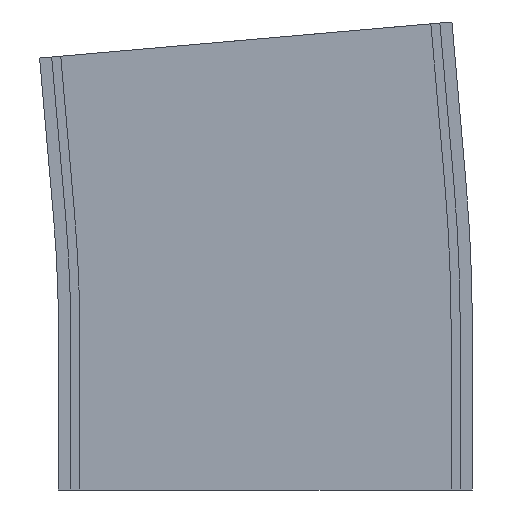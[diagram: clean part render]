
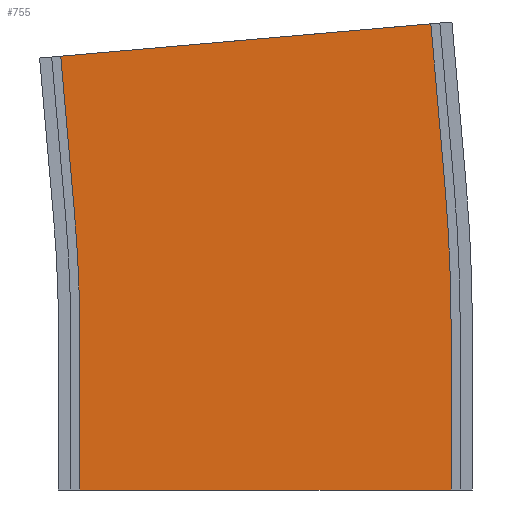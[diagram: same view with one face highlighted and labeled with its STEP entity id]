
A CAD part, left-side view. The second image highlights one B-rep face of the part: STEP entity #755.
In plain terms, the highlighted planar face has unit normal (-1, 0, 0).
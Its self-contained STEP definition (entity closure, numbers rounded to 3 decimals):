
#8 = CIRCLE ( 'NONE', #409, 561.25 ) ;
#39 = CARTESIAN_POINT ( 'NONE',  ( -325.25, 67.495, 143.04 ) ) ;
#52 = EDGE_CURVE ( 'NONE', #1266, #1389, #1363, .T. ) ;
#61 = VECTOR ( 'NONE', #1192, 1000. ) ;
#78 = LINE ( 'NONE', #1265, #919 ) ;
#80 = VECTOR ( 'NONE', #784, 1000. ) ;
#109 = DIRECTION ( 'NONE',  ( 0., 0.087, 0.996 ) ) ;
#154 = DIRECTION ( 'NONE',  ( 0., 0., 1. ) ) ;
#189 = LINE ( 'NONE', #484, #345 ) ;
#229 = CARTESIAN_POINT ( 'NONE',  ( -325.25, 62.92, 90.74 ) ) ;
#234 = ORIENTED_EDGE ( 'NONE', *, *, #903, .T. ) ;
#267 = EDGE_LOOP ( 'NONE', ( #1218, #1200, #1202, #234, #1228, #1216, #809, #879 ) ) ;
#305 = CARTESIAN_POINT ( 'NONE',  ( -325.25, -61.25, 0. ) ) ;
#345 = VECTOR ( 'NONE', #1134, 1000. ) ;
#346 = VECTOR ( 'NONE', #109, 1000. ) ;
#354 = VERTEX_POINT ( 'NONE', #1246 ) ;
#395 = CARTESIAN_POINT ( 'NONE',  ( -325.25, 61.25, 0. ) ) ;
#403 = DIRECTION ( 'NONE',  ( -1., 0., 0. ) ) ;
#409 = AXIS2_PLACEMENT_3D ( 'NONE', #944, #1136, #154 ) ;
#417 = LINE ( 'NONE', #229, #346 ) ;
#484 = CARTESIAN_POINT ( 'NONE',  ( -325.25, 61.25, 52.5 ) ) ;
#487 = CIRCLE ( 'NONE', #1398, 438.75 ) ;
#488 = VECTOR ( 'NONE', #786, 1000. ) ;
#502 = AXIS2_PLACEMENT_3D ( 'NONE', #1283, #771, #1397 ) ;
#547 = CARTESIAN_POINT ( 'NONE',  ( -325.25, -59.114, 101.416 ) ) ;
#548 = PLANE ( 'NONE',  #502 ) ;
#582 = CARTESIAN_POINT ( 'NONE',  ( -325.25, 62.92, 90.74 ) ) ;
#599 = EDGE_CURVE ( 'NONE', #1187, #1389, #1004, .T. ) ;
#685 = VERTEX_POINT ( 'NONE', #547 ) ;
#730 = VERTEX_POINT ( 'NONE', #582 ) ;
#755 = ADVANCED_FACE ( 'NONE', ( #1383 ), #548, .F. ) ;
#771 = DIRECTION ( 'NONE',  ( 1., 0., 0. ) ) ;
#784 = DIRECTION ( 'NONE',  ( 0., 0., -1. ) ) ;
#786 = DIRECTION ( 'NONE',  ( 0., 0.087, 0.996 ) ) ;
#791 = LINE ( 'NONE', #1250, #488 ) ;
#809 = ORIENTED_EDGE ( 'NONE', *, *, #1111, .F. ) ;
#846 = CARTESIAN_POINT ( 'NONE',  ( -325.25, 500., 52.5 ) ) ;
#875 = EDGE_CURVE ( 'NONE', #730, #1039, #417, .T. ) ;
#879 = ORIENTED_EDGE ( 'NONE', *, *, #958, .T. ) ;
#903 = EDGE_CURVE ( 'NONE', #685, #354, #791, .T. ) ;
#919 = VECTOR ( 'NONE', #954, 1000. ) ;
#944 = CARTESIAN_POINT ( 'NONE',  ( -325.25, 500., 52.5 ) ) ;
#954 = DIRECTION ( 'NONE',  ( 0., -0.996, 0.087 ) ) ;
#958 = EDGE_CURVE ( 'NONE', #1371, #1187, #189, .T. ) ;
#1004 = LINE ( 'NONE', #305, #61 ) ;
#1039 = VERTEX_POINT ( 'NONE', #39 ) ;
#1062 = DIRECTION ( 'NONE',  ( 0., 0., 1. ) ) ;
#1090 = CARTESIAN_POINT ( 'NONE',  ( -325.25, -61.25, 0. ) ) ;
#1111 = EDGE_CURVE ( 'NONE', #1371, #730, #487, .T. ) ;
#1134 = DIRECTION ( 'NONE',  ( 0., 0., -1. ) ) ;
#1136 = DIRECTION ( 'NONE',  ( -1., 0., 0. ) ) ;
#1144 = EDGE_CURVE ( 'NONE', #1039, #354, #78, .T. ) ;
#1187 = VERTEX_POINT ( 'NONE', #395 ) ;
#1192 = DIRECTION ( 'NONE',  ( 0., -1., 0. ) ) ;
#1200 = ORIENTED_EDGE ( 'NONE', *, *, #52, .F. ) ;
#1202 = ORIENTED_EDGE ( 'NONE', *, *, #1396, .T. ) ;
#1209 = CARTESIAN_POINT ( 'NONE',  ( -325.25, -61.25, 52.5 ) ) ;
#1216 = ORIENTED_EDGE ( 'NONE', *, *, #875, .F. ) ;
#1218 = ORIENTED_EDGE ( 'NONE', *, *, #599, .T. ) ;
#1228 = ORIENTED_EDGE ( 'NONE', *, *, #1144, .F. ) ;
#1246 = CARTESIAN_POINT ( 'NONE',  ( -325.25, -54.539, 153.716 ) ) ;
#1250 = CARTESIAN_POINT ( 'NONE',  ( -325.25, -59.114, 101.416 ) ) ;
#1265 = CARTESIAN_POINT ( 'NONE',  ( -325.25, -54.539, 153.716 ) ) ;
#1266 = VERTEX_POINT ( 'NONE', #1410 ) ;
#1283 = CARTESIAN_POINT ( 'NONE',  ( -325.25, -61.25, 52.5 ) ) ;
#1307 = CARTESIAN_POINT ( 'NONE',  ( -325.25, 61.25, 52.5 ) ) ;
#1363 = LINE ( 'NONE', #1209, #80 ) ;
#1371 = VERTEX_POINT ( 'NONE', #1307 ) ;
#1383 = FACE_OUTER_BOUND ( 'NONE', #267, .T. ) ;
#1389 = VERTEX_POINT ( 'NONE', #1090 ) ;
#1396 = EDGE_CURVE ( 'NONE', #1266, #685, #8, .T. ) ;
#1397 = DIRECTION ( 'NONE',  ( 0., 0., -1. ) ) ;
#1398 = AXIS2_PLACEMENT_3D ( 'NONE', #846, #403, #1062 ) ;
#1410 = CARTESIAN_POINT ( 'NONE',  ( -325.25, -61.25, 52.5 ) ) ;
